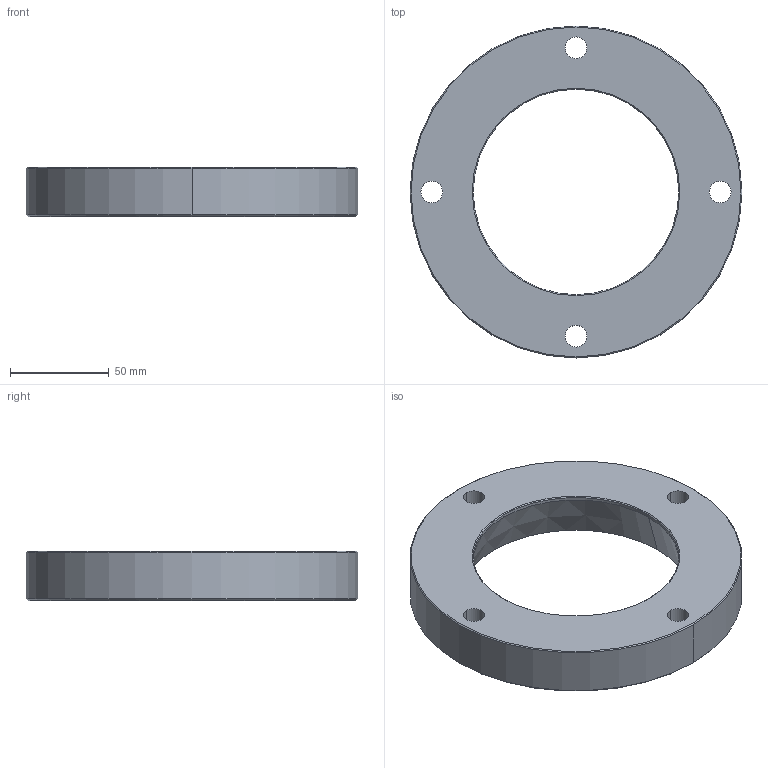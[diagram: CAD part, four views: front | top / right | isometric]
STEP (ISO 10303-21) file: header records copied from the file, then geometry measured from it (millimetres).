
FILE_DESCRIPTION((''),'2;1');
FILE_NAME('','2010-08-30T17:26:34+09:00',('misumi'),(''),'M/STEP i/f 1R2-14','CADmeister v5.1','');
FILE_SCHEMA(('AUTOMOTIVE_DESIGN'));
Length unit declared in the file: millimetre
Products named in the file (1): HKD80-25-R
Bounding box: 168 x 168 x 25 mm (x, y, z)
Volume: 299132 mm3; surface area: 50660.5 mm2
Topology: 1 solids, 1 shells, 34 faces, 78 edges, 50 vertices
Faces by surface type: cylinder 20, cone 8, plane 6
Entity records: 1090 total; most frequent: DIRECTION 198, CARTESIAN_POINT 163, ORIENTED_EDGE 156, AXIS2_PLACEMENT_3D 85, EDGE_CURVE 78, VERTEX_POINT 50, CIRCLE 50, EDGE_LOOP 48
